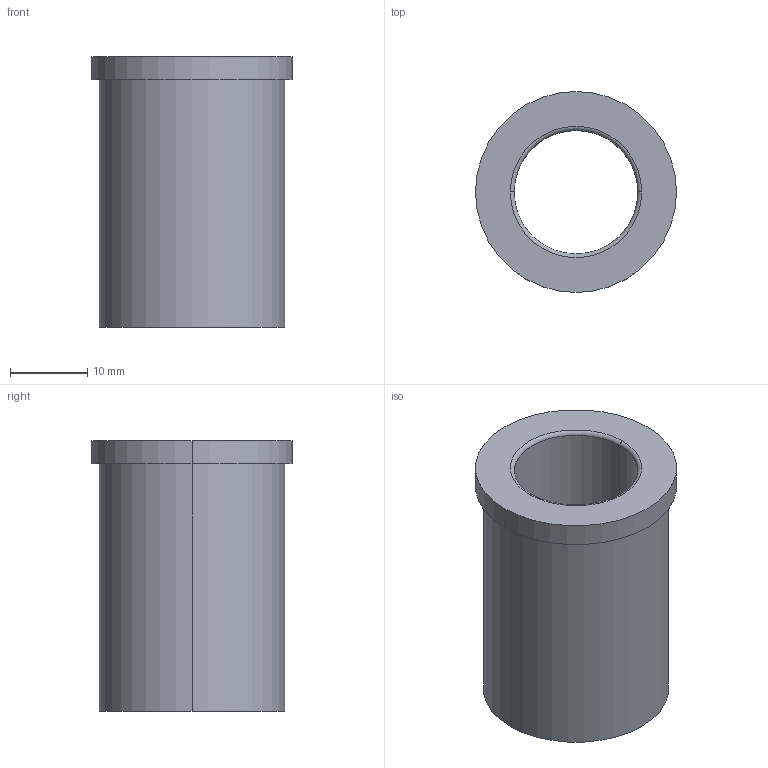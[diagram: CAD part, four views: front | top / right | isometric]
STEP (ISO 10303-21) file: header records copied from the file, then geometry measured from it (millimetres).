
FILE_DESCRIPTION(/* description */ (''),/* implementation_level */ '2;1');
FILE_NAME(/* name */ '3d_sghz16-35_00312_r00.stp',/* time_stamp */ '2011-01-10T14:11:11+09:00',/* author */ ('MISUMI'),/* organization */ (''),/* preprocessor_version */ 'ST-DEVELOPER v11',/* originating_system */ 'UGS - NX 5.0',/* authorisation */ '');
FILE_SCHEMA (('CONFIG_CONTROL_DESIGN'));
Length unit declared in the file: millimetre
Products named in the file (1): 3d_sghz16-35_00312_r00
Bounding box: 26 x 26 x 35 mm (x, y, z)
Volume: 9026.6 mm3; surface area: 5055.5 mm2
Topology: 1 solids, 1 shells, 13 faces, 26 edges, 16 vertices
Faces by surface type: cylinder 6, torus 4, plane 3
Entity records: 438 total; most frequent: DIRECTION 74, CARTESIAN_POINT 56, ORIENTED_EDGE 52, AXIS2_PLACEMENT_3D 34, EDGE_CURVE 26, CIRCLE 20, EDGE_LOOP 16, VERTEX_POINT 16
